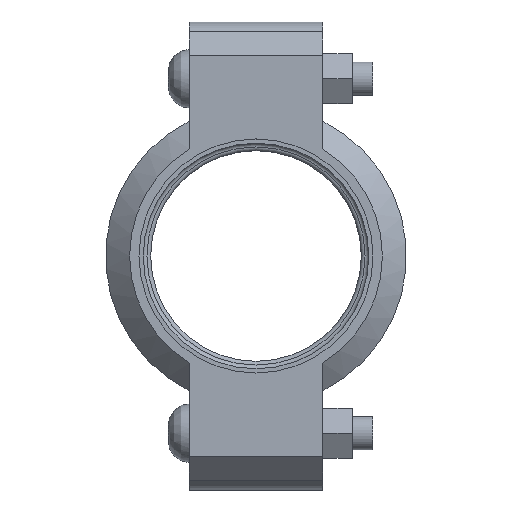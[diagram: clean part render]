
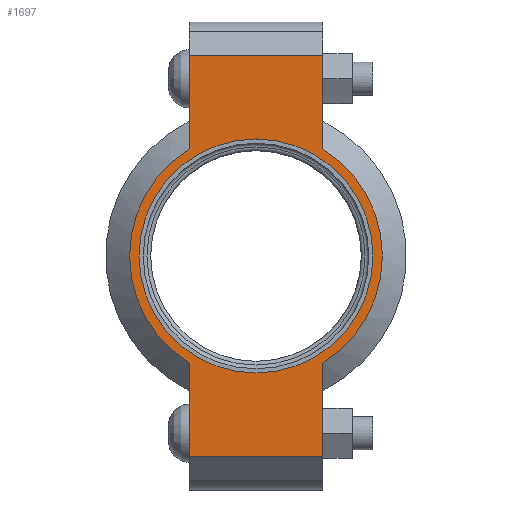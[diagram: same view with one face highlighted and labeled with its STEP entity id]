
A CAD part, left-side view. The second image highlights one B-rep face of the part: STEP entity #1697.
In plain terms, the highlighted planar face has unit normal (-1, 0, 0) as drawn and (0, 0, 1) by its records, which use the part's own axes.
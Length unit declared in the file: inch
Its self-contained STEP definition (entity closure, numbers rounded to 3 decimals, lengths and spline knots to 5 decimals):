
#103=LINE('',#2981,#194);
#111=LINE('',#3017,#202);
#118=LINE('',#3038,#209);
#127=LINE('',#3070,#218);
#128=LINE('',#3074,#219);
#129=LINE('',#3076,#220);
#194=VECTOR('',#2424,0.3937);
#202=VECTOR('',#2440,0.3937);
#209=VECTOR('',#2459,0.3937);
#218=VECTOR('',#2484,0.3937);
#219=VECTOR('',#2489,0.3937);
#220=VECTOR('',#2490,0.3937);
#264=FACE_BOUND('',#478,.T.);
#302=PLANE('',#1981);
#378=FACE_OUTER_BOUND('',#477,.T.);
#477=EDGE_LOOP('',(#1443,#1444,#1445,#1446,#1447,#1448,#1449,#1450));
#478=EDGE_LOOP('',(#1451));
#626=CIRCLE('',#1982,1.89);
#627=CIRCLE('',#1983,1.89);
#628=CIRCLE('',#1984,1.75);
#766=VERTEX_POINT('',#2978);
#767=VERTEX_POINT('',#2980);
#778=VERTEX_POINT('',#3012);
#779=VERTEX_POINT('',#3016);
#786=VERTEX_POINT('',#3035);
#787=VERTEX_POINT('',#3037);
#797=VERTEX_POINT('',#3073);
#798=VERTEX_POINT('',#3075);
#799=VERTEX_POINT('',#3078);
#981=EDGE_CURVE('',#767,#766,#103,.T.);
#995=EDGE_CURVE('',#779,#778,#111,.T.);
#1005=EDGE_CURVE('',#787,#786,#118,.T.);
#1020=EDGE_CURVE('',#779,#766,#127,.T.);
#1021=EDGE_CURVE('',#778,#787,#626,.T.);
#1022=EDGE_CURVE('',#797,#786,#128,.T.);
#1023=EDGE_CURVE('',#797,#798,#129,.T.);
#1024=EDGE_CURVE('',#798,#767,#627,.T.);
#1025=EDGE_CURVE('',#799,#799,#628,.T.);
#1443=ORIENTED_EDGE('',*,*,#1020,.F.);
#1444=ORIENTED_EDGE('',*,*,#995,.T.);
#1445=ORIENTED_EDGE('',*,*,#1021,.T.);
#1446=ORIENTED_EDGE('',*,*,#1005,.T.);
#1447=ORIENTED_EDGE('',*,*,#1022,.F.);
#1448=ORIENTED_EDGE('',*,*,#1023,.T.);
#1449=ORIENTED_EDGE('',*,*,#1024,.T.);
#1450=ORIENTED_EDGE('',*,*,#981,.T.);
#1451=ORIENTED_EDGE('',*,*,#1025,.T.);
#1697=ADVANCED_FACE('',(#378,#264),#302,.T.);
#1981=AXIS2_PLACEMENT_3D('',#3071,#2485,#2486);
#1982=AXIS2_PLACEMENT_3D('',#3072,#2487,#2488);
#1983=AXIS2_PLACEMENT_3D('',#3077,#2491,#2492);
#1984=AXIS2_PLACEMENT_3D('',#3079,#2493,#2494);
#2424=DIRECTION('',(1.,0.,0.));
#2440=DIRECTION('',(-1.,0.,0.));
#2459=DIRECTION('',(-1.,0.,0.));
#2484=DIRECTION('',(0.,-1.,0.));
#2485=DIRECTION('center_axis',(0.,0.,1.));
#2486=DIRECTION('ref_axis',(-1.,0.,0.));
#2487=DIRECTION('center_axis',(0.,0.,1.));
#2488=DIRECTION('ref_axis',(1.,0.,0.));
#2489=DIRECTION('',(0.,1.,0.));
#2490=DIRECTION('',(1.,0.,0.));
#2491=DIRECTION('center_axis',(0.,0.,1.));
#2492=DIRECTION('ref_axis',(1.,0.,0.));
#2493=DIRECTION('center_axis',(0.,0.,-1.));
#2494=DIRECTION('ref_axis',(1.,0.,0.));
#2978=CARTESIAN_POINT('',(3.,-1.,0.94));
#2980=CARTESIAN_POINT('',(1.60378,-1.,0.94));
#2981=CARTESIAN_POINT('',(3.5,-1.,0.94));
#3012=CARTESIAN_POINT('',(1.60378,1.,0.94));
#3016=CARTESIAN_POINT('',(3.,1.,0.94));
#3017=CARTESIAN_POINT('',(-3.5,1.,0.94));
#3035=CARTESIAN_POINT('',(-3.,1.,0.94));
#3037=CARTESIAN_POINT('',(-1.60378,1.,0.94));
#3038=CARTESIAN_POINT('',(-3.5,1.,0.94));
#3070=CARTESIAN_POINT('',(3.,-0.5,0.94));
#3071=CARTESIAN_POINT('Origin',(0.,0.,
0.94));
#3072=CARTESIAN_POINT('Origin',(0.,0.,0.94));
#3073=CARTESIAN_POINT('',(-3.,-1.,0.94));
#3074=CARTESIAN_POINT('',(-3.,0.5,0.94));
#3075=CARTESIAN_POINT('',(-1.60378,-1.,0.94));
#3076=CARTESIAN_POINT('',(3.5,-1.,0.94));
#3077=CARTESIAN_POINT('Origin',(0.,0.,0.94));
#3078=CARTESIAN_POINT('',(-1.75,0.,0.94));
#3079=CARTESIAN_POINT('Origin',(0.,0.,0.94));
